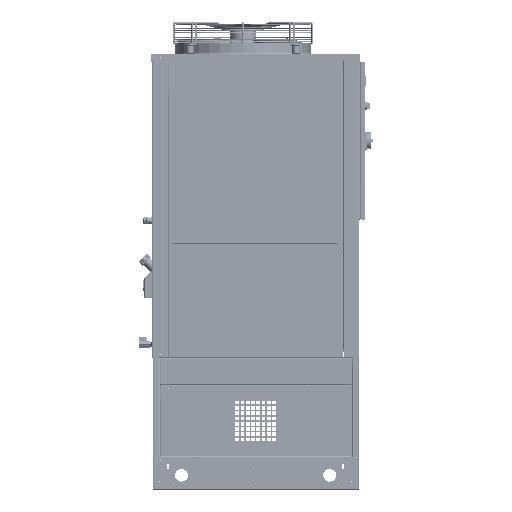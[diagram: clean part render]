
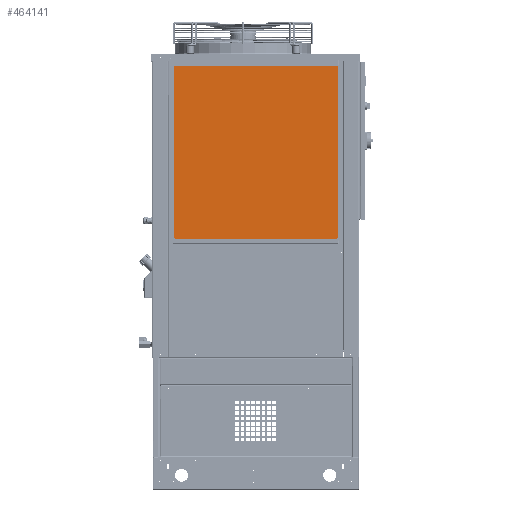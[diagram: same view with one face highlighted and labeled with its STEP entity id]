
A CAD part, top view. The second image highlights one B-rep face of the part: STEP entity #464141.
In plain terms, the highlighted planar face has unit normal (0, 0, 1).
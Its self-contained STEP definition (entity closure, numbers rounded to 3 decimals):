
#24285 = CARTESIAN_POINT ( 'NONE',  ( -301., 328., 2. ) ) ;
#49526 = FACE_OUTER_BOUND ( 'NONE', #575409, .T. ) ;
#52196 = DIRECTION ( 'NONE',  ( 0., 0., 1. ) ) ;
#52991 = EDGE_CURVE ( 'NONE', #395903, #178268, #474629, .T. ) ;
#58284 = CARTESIAN_POINT ( 'NONE',  ( -313., -328., 2. ) ) ;
#73816 = DIRECTION ( 'NONE',  ( 1., 0., 0. ) ) ;
#86332 = CARTESIAN_POINT ( 'NONE',  ( -301., -340., 2. ) ) ;
#86886 = DIRECTION ( 'NONE',  ( 0., 0., 1. ) ) ;
#90598 = ORIENTED_EDGE ( 'NONE', *, *, #414582, .T. ) ;
#91631 = EDGE_CURVE ( 'NONE', #344757, #215151, #508521, .T. ) ;
#96762 = AXIS2_PLACEMENT_3D ( 'NONE', #150405, #353154, #343840 ) ;
#107419 = ORIENTED_EDGE ( 'NONE', *, *, #396759, .T. ) ;
#114677 = ORIENTED_EDGE ( 'NONE', *, *, #395281, .T. ) ;
#132058 = DIRECTION ( 'NONE',  ( 0., 1., 0. ) ) ;
#150405 = CARTESIAN_POINT ( 'NONE',  ( 301., 328., 2. ) ) ;
#152068 = VECTOR ( 'NONE', #554171, 1000. ) ;
#153624 = DIRECTION ( 'NONE',  ( 1., 0., 0. ) ) ;
#155123 = VERTEX_POINT ( 'NONE', #373430 ) ;
#170145 = ORIENTED_EDGE ( 'NONE', *, *, #52991, .T. ) ;
#176437 = DIRECTION ( 'NONE',  ( 0., 0., 1. ) ) ;
#178268 = VERTEX_POINT ( 'NONE', #214414 ) ;
#191979 = VECTOR ( 'NONE', #386542, 1000. ) ;
#192987 = LINE ( 'NONE', #541921, #191979 ) ;
#210911 = VERTEX_POINT ( 'NONE', #302105 ) ;
#214414 = CARTESIAN_POINT ( 'NONE',  ( 313., 328., 2. ) ) ;
#215151 = VERTEX_POINT ( 'NONE', #571759 ) ;
#231909 = AXIS2_PLACEMENT_3D ( 'NONE', #281124, #430295, #627064 ) ;
#239861 = PLANE ( 'NONE',  #231909 ) ;
#253947 = ORIENTED_EDGE ( 'NONE', *, *, #442333, .T. ) ;
#269540 = VECTOR ( 'NONE', #132058, 1000. ) ;
#277897 = EDGE_CURVE ( 'NONE', #210911, #155123, #192987, .T. ) ;
#281124 = CARTESIAN_POINT ( 'NONE',  ( -301., 328., 2. ) ) ;
#302105 = CARTESIAN_POINT ( 'NONE',  ( 301., 340., 2. ) ) ;
#308523 = CARTESIAN_POINT ( 'NONE',  ( -301., -340., 2. ) ) ;
#317375 = AXIS2_PLACEMENT_3D ( 'NONE', #486837, #52196, #153624 ) ;
#343840 = DIRECTION ( 'NONE',  ( 1., 0., 0. ) ) ;
#344757 = VERTEX_POINT ( 'NONE', #308523 ) ;
#347279 = VECTOR ( 'NONE', #73816, 1000. ) ;
#352821 = CARTESIAN_POINT ( 'NONE',  ( 313., -328., 2. ) ) ;
#353154 = DIRECTION ( 'NONE',  ( 0., 0., 1. ) ) ;
#357266 = VERTEX_POINT ( 'NONE', #58284 ) ;
#357689 = CIRCLE ( 'NONE', #317375, 12. ) ;
#365790 = VERTEX_POINT ( 'NONE', #437165 ) ;
#370210 = CIRCLE ( 'NONE', #96762, 12. ) ;
#373430 = CARTESIAN_POINT ( 'NONE',  ( -301., 340., 2. ) ) ;
#386542 = DIRECTION ( 'NONE',  ( -1., 0., 0. ) ) ;
#394169 = AXIS2_PLACEMENT_3D ( 'NONE', #455988, #86886, #569283 ) ;
#395281 = EDGE_CURVE ( 'NONE', #155123, #365790, #404567, .T. ) ;
#395903 = VERTEX_POINT ( 'NONE', #352821 ) ;
#396759 = EDGE_CURVE ( 'NONE', #357266, #344757, #475254, .T. ) ;
#404413 = EDGE_CURVE ( 'NONE', #215151, #395903, #357689, .T. ) ;
#404567 = CIRCLE ( 'NONE', #536475, 12. ) ;
#414582 = EDGE_CURVE ( 'NONE', #178268, #210911, #370210, .T. ) ;
#420665 = CARTESIAN_POINT ( 'NONE',  ( -313., -328., 2. ) ) ;
#423859 = DIRECTION ( 'NONE',  ( 1., 0., 0. ) ) ;
#429737 = ORIENTED_EDGE ( 'NONE', *, *, #91631, .T. ) ;
#430295 = DIRECTION ( 'NONE',  ( 0., 0., 1. ) ) ;
#437165 = CARTESIAN_POINT ( 'NONE',  ( -313., 328., 2. ) ) ;
#442333 = EDGE_CURVE ( 'NONE', #365790, #357266, #566721, .T. ) ;
#455988 = CARTESIAN_POINT ( 'NONE',  ( -301., -328., 2. ) ) ;
#464141 = ADVANCED_FACE ( 'NONE', ( #49526 ), #239861, .T. ) ;
#474629 = LINE ( 'NONE', #617531, #269540 ) ;
#475254 = CIRCLE ( 'NONE', #394169, 12. ) ;
#486837 = CARTESIAN_POINT ( 'NONE',  ( 301., -328., 2. ) ) ;
#508521 = LINE ( 'NONE', #86332, #347279 ) ;
#536475 = AXIS2_PLACEMENT_3D ( 'NONE', #24285, #176437, #423859 ) ;
#541921 = CARTESIAN_POINT ( 'NONE',  ( -301., 340., 2. ) ) ;
#554171 = DIRECTION ( 'NONE',  ( 0., -1., 0. ) ) ;
#566721 = LINE ( 'NONE', #420665, #152068 ) ;
#569283 = DIRECTION ( 'NONE',  ( 1., 0., 0. ) ) ;
#571759 = CARTESIAN_POINT ( 'NONE',  ( 301., -340., 2. ) ) ;
#575409 = EDGE_LOOP ( 'NONE', ( #114677, #253947, #107419, #429737, #596799, #170145, #90598, #586639 ) ) ;
#586639 = ORIENTED_EDGE ( 'NONE', *, *, #277897, .T. ) ;
#596799 = ORIENTED_EDGE ( 'NONE', *, *, #404413, .T. ) ;
#617531 = CARTESIAN_POINT ( 'NONE',  ( 313., -328., 2. ) ) ;
#627064 = DIRECTION ( 'NONE',  ( 1., 0., 0. ) ) ;
